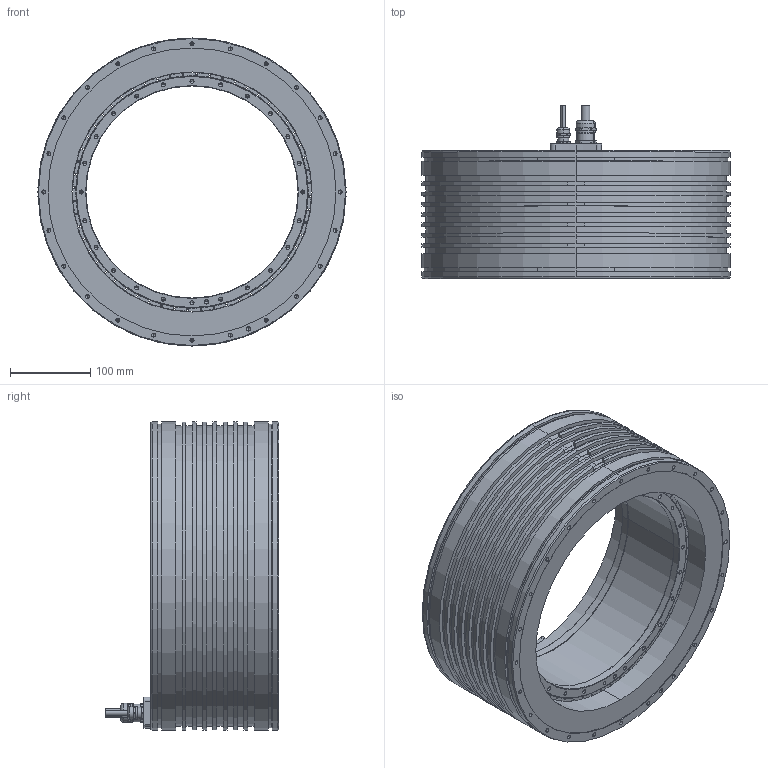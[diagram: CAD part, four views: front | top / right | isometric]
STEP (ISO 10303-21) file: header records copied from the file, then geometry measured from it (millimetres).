
FILE_DESCRIPTION (( 'STEP AP214' ), '1' );
FILE_NAME ('TORQUE KIT QMT LA 385-160-I-AX.STEP', '2025-09-04T13:40:46', ( '' ), ( '' ), 'SwSTEP 2.0', 'SolidWorks 2023', '' );
FILE_SCHEMA (( 'AUTOMOTIVE_DESIGN' ));
Length unit declared in the file: millimetre
Products named in the file (21): Stator; Rotor; Housing; Cable Gland; Resin; Cooling Ring; Cable Connection; Cable Clamp; Magnet; Cable; Screw; TORQUE KIT QMT LA 385-160-I-AX; Housing-BO; Rotor Ring; Rotor_Glued
Assembly tree (132 placements, depth 6):
  TORQUE KIT QMT LA 385-160-I-AX
    Stator
      Stator
        Housing
          Housing-BO
            Cooling Ring
        Cable Connection
          Cable Connection
          Cable
          Cable
        Resin
      Cable Clamp
        Cable Clamp
        Cable Gland
        Cable Gland
      Screw  x3
    Rotor
      Rotor_Glued
        Rotor Ring
        Magnet  x56
        Magnet  x56
Bounding box: 385 x 217.1 x 385 mm (x, y, z)
Volume: 8225471 mm3; surface area: 1376236.7 mm2
Topology: 124 solids, 124 shells, 4520 faces, 10286 edges, 5510 vertices
Faces by surface type: cylinder 1936, sphere 1120, plane 678, torus 476, cone 310
Entity records: 39835 total; most frequent: DIRECTION 5816, CARTESIAN_POINT 5631, ORIENTED_EDGE 4712, AXIS2_PLACEMENT_3D 2389, EDGE_CURVE 2356, VERTEX_POINT 1476, EDGE_LOOP 1244, CIRCLE 1190
